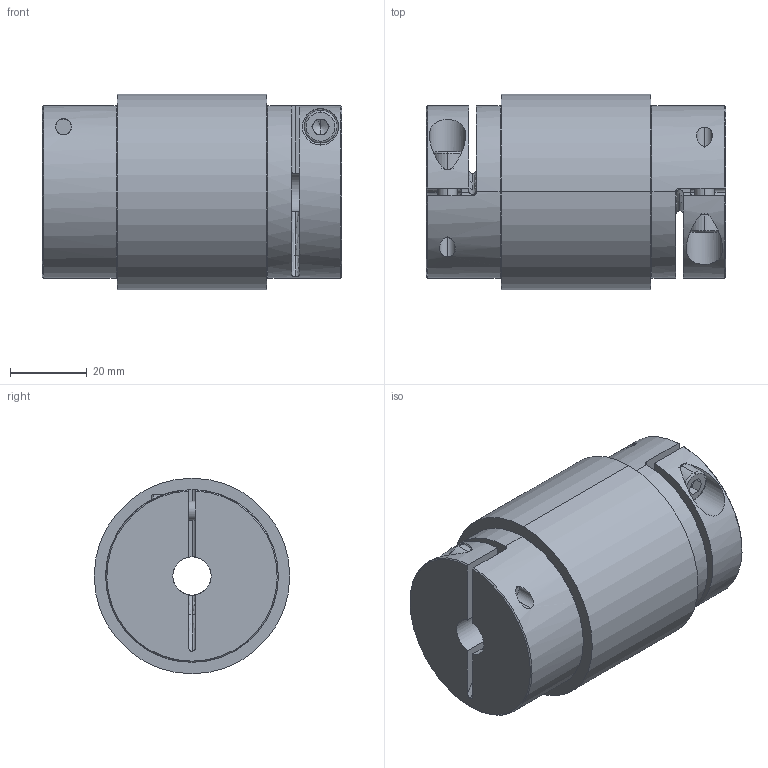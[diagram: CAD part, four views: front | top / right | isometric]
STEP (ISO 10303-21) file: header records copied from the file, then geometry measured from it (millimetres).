
FILE_DESCRIPTION (( 'STEP AP203' ), '1' );
FILE_NAME ('PMK 18.STEP', '2022-08-23T08:53:55', ( '' ), ( '' ), 'SwSTEP 2.0', 'SolidWorks 2019', '' );
FILE_SCHEMA (( 'CONFIG_CONTROL_DESIGN' ));
Length unit declared in the file: millimetre
Products named in the file (5): PMK 18; PMK-IRO 18_011.00000445.300_Kunde; BNK 18-2G_011.00000217.100_Kunde; PMK-ARO 18_011.00000446.300_Kunde; socket head cap screw 4762_din_EN ISO 4762 M5 x 16 - 16N
Assembly tree (6 placements, depth 2):
  PMK 18
    BNK 18-2G_011.00000217.100_Kunde  x2
    PMK-IRO 18_011.00000445.300_Kunde
    PMK-ARO 18_011.00000446.300_Kunde
    socket head cap screw 4762_din_EN ISO 4762 M5 x 16 - 16N  x2
Bounding box: 78 x 51 x 51 mm (x, y, z)
Volume: 108954.2 mm3; surface area: 43322.3 mm2
Topology: 6 solids, 6 shells, 152 faces, 346 edges, 214 vertices
Faces by surface type: plane 60, cylinder 54, torus 20, cone 16, bspline 2
Entity records: 3457 total; most frequent: CARTESIAN_POINT 723, DIRECTION 499, ORIENTED_EDGE 414, AXIS2_PLACEMENT_3D 209, EDGE_CURVE 207, VERTEX_POINT 131, EDGE_LOOP 114, CIRCLE 107
